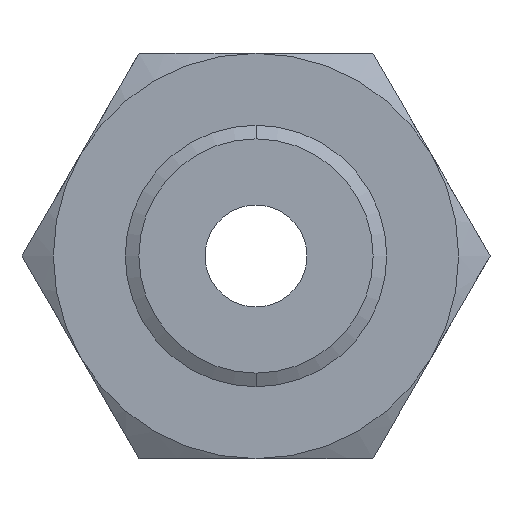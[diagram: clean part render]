
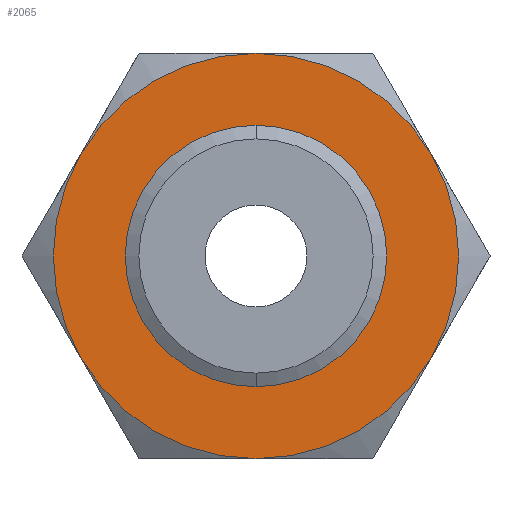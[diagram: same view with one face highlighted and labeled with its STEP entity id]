
A CAD part, front view. The second image highlights one B-rep face of the part: STEP entity #2065.
In plain terms, the highlighted planar face has unit normal (0, -1, 0).
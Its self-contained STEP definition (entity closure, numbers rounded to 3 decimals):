
#105 = EDGE_LOOP ( 'NONE', ( #115, #106 ) ) ;
#106 = ORIENTED_EDGE ( 'NONE', *, *, #118, .F. ) ;
#107 = ORIENTED_EDGE ( 'NONE', *, *, #109, .F. ) ;
#109 = EDGE_CURVE ( 'NONE', #112, #2077, #577, .T. ) ;
#112 = VERTEX_POINT ( 'NONE', #572 ) ;
#114 = EDGE_CURVE ( 'NONE', #2077, #2072, #570, .T. ) ;
#115 = ORIENTED_EDGE ( 'NONE', *, *, #175, .F. ) ;
#116 = ORIENTED_EDGE ( 'NONE', *, *, #117, .F. ) ;
#117 = EDGE_CURVE ( 'NONE', #2063, #112, #565, .T. ) ;
#118 = EDGE_CURVE ( 'NONE', #177, #176, #561, .T. ) ;
#175 = EDGE_CURVE ( 'NONE', #176, #177, #693, .T. ) ;
#176 = VERTEX_POINT ( 'NONE', #688 ) ;
#177 = VERTEX_POINT ( 'NONE', #687 ) ;
#557 = DIRECTION ( 'NONE',  ( 0., 0., -1. ) ) ;
#558 = DIRECTION ( 'NONE',  ( 0., -1., 0. ) ) ;
#559 = CARTESIAN_POINT ( 'NONE',  ( 0., 0., 0. ) ) ;
#560 = AXIS2_PLACEMENT_3D ( 'NONE', #559, #558, #557 ) ;
#561 = CIRCLE ( 'NONE', #560, 44.804 ) ;
#562 = DIRECTION ( 'NONE',  ( 0., 0., 1. ) ) ;
#563 = DIRECTION ( 'NONE',  ( 0., 1., 0. ) ) ;
#564 = AXIS2_PLACEMENT_3D ( 'NONE', #571, #563, #562 ) ;
#565 = CIRCLE ( 'NONE', #564, 77.5 ) ;
#566 = DIRECTION ( 'NONE',  ( 0., 0., 1. ) ) ;
#567 = DIRECTION ( 'NONE',  ( 0., 1., 0. ) ) ;
#568 = CARTESIAN_POINT ( 'NONE',  ( 0., 0., 0. ) ) ;
#569 = AXIS2_PLACEMENT_3D ( 'NONE', #568, #567, #566 ) ;
#570 = CIRCLE ( 'NONE', #569, 77.5 ) ;
#571 = CARTESIAN_POINT ( 'NONE',  ( 0., 0., 0. ) ) ;
#572 = CARTESIAN_POINT ( 'NONE',  ( 67.117, 0., -38.75 ) ) ;
#573 = DIRECTION ( 'NONE',  ( 0., 0., 1. ) ) ;
#574 = DIRECTION ( 'NONE',  ( 0., 1., 0. ) ) ;
#575 = CARTESIAN_POINT ( 'NONE',  ( 0., 0., 0. ) ) ;
#576 = AXIS2_PLACEMENT_3D ( 'NONE', #575, #574, #573 ) ;
#577 = CIRCLE ( 'NONE', #576, 77.5 ) ;
#687 = CARTESIAN_POINT ( 'NONE',  ( 0., 0., 44.804 ) ) ;
#688 = CARTESIAN_POINT ( 'NONE',  ( 0., 0., -44.804 ) ) ;
#689 = DIRECTION ( 'NONE',  ( 0., 0., -1. ) ) ;
#690 = DIRECTION ( 'NONE',  ( 0., -1., 0. ) ) ;
#691 = CARTESIAN_POINT ( 'NONE',  ( 0., 0., 0. ) ) ;
#692 = AXIS2_PLACEMENT_3D ( 'NONE', #691, #690, #689 ) ;
#693 = CIRCLE ( 'NONE', #692, 44.804 ) ;
#827 = AXIS2_PLACEMENT_3D ( 'NONE', #1084, #2245, #2247 ) ;
#828 = CIRCLE ( 'NONE', #827, 77.5 ) ;
#1056 = DIRECTION ( 'NONE',  ( 0., 0., 1. ) ) ;
#1057 = DIRECTION ( 'NONE',  ( 0., 1., 0. ) ) ;
#1058 = CARTESIAN_POINT ( 'NONE',  ( 44.745, 0., -77.5 ) ) ;
#1059 = AXIS2_PLACEMENT_3D ( 'NONE', #1058, #1057, #1056 ) ;
#1060 = PLANE ( 'NONE',  #1059 ) ;
#1061 = FACE_BOUND ( 'NONE', #105, .T. ) ;
#1062 = FACE_OUTER_BOUND ( 'NONE', #2102, .T. ) ;
#1063 = CARTESIAN_POINT ( 'NONE',  ( 67.117, 0., 38.75 ) ) ;
#1064 = DIRECTION ( 'NONE',  ( 0., 0., 1. ) ) ;
#1065 = DIRECTION ( 'NONE',  ( 0., 1., 0. ) ) ;
#1066 = CARTESIAN_POINT ( 'NONE',  ( 0., 0., 0. ) ) ;
#1067 = AXIS2_PLACEMENT_3D ( 'NONE', #1066, #1065, #1064 ) ;
#1068 = CIRCLE ( 'NONE', #1067, 77.5 ) ;
#1069 = CARTESIAN_POINT ( 'NONE',  ( 0., 0., 77.5 ) ) ;
#1084 = CARTESIAN_POINT ( 'NONE',  ( 0., 0., 0. ) ) ;
#1085 = CARTESIAN_POINT ( 'NONE',  ( -67.117, 0., 38.75 ) ) ;
#1086 = CARTESIAN_POINT ( 'NONE',  ( 0., 0., -77.5 ) ) ;
#1101 = CARTESIAN_POINT ( 'NONE',  ( -67.117, 0., -38.75 ) ) ;
#1119 = DIRECTION ( 'NONE',  ( 0., 0., 1. ) ) ;
#1120 = DIRECTION ( 'NONE',  ( 0., 1., 0. ) ) ;
#1121 = CARTESIAN_POINT ( 'NONE',  ( 0., 0., 0. ) ) ;
#1122 = AXIS2_PLACEMENT_3D ( 'NONE', #1121, #1120, #1119 ) ;
#1123 = CIRCLE ( 'NONE', #1122, 77.5 ) ;
#2061 = VERTEX_POINT ( 'NONE', #1069 ) ;
#2062 = EDGE_CURVE ( 'NONE', #2061, #2063, #1068, .T. ) ;
#2063 = VERTEX_POINT ( 'NONE', #1063 ) ;
#2064 = ORIENTED_EDGE ( 'NONE', *, *, #2062, .F. ) ;
#2065 = ADVANCED_FACE ( 'NONE', ( #1062, #1061 ), #1060, .F. ) ;
#2072 = VERTEX_POINT ( 'NONE', #1101 ) ;
#2077 = VERTEX_POINT ( 'NONE', #1086 ) ;
#2078 = ORIENTED_EDGE ( 'NONE', *, *, #114, .F. ) ;
#2079 = VERTEX_POINT ( 'NONE', #1085 ) ;
#2081 = ORIENTED_EDGE ( 'NONE', *, *, #2082, .F. ) ;
#2082 = EDGE_CURVE ( 'NONE', #2072, #2079, #828, .T. ) ;
#2087 = ORIENTED_EDGE ( 'NONE', *, *, #2089, .F. ) ;
#2089 = EDGE_CURVE ( 'NONE', #2079, #2061, #1123, .T. ) ;
#2102 = EDGE_LOOP ( 'NONE', ( #2064, #2087, #2081, #2078, #107, #116 ) ) ;
#2245 = DIRECTION ( 'NONE',  ( 0., 1., 0. ) ) ;
#2247 = DIRECTION ( 'NONE',  ( 0., 0., 1. ) ) ;
